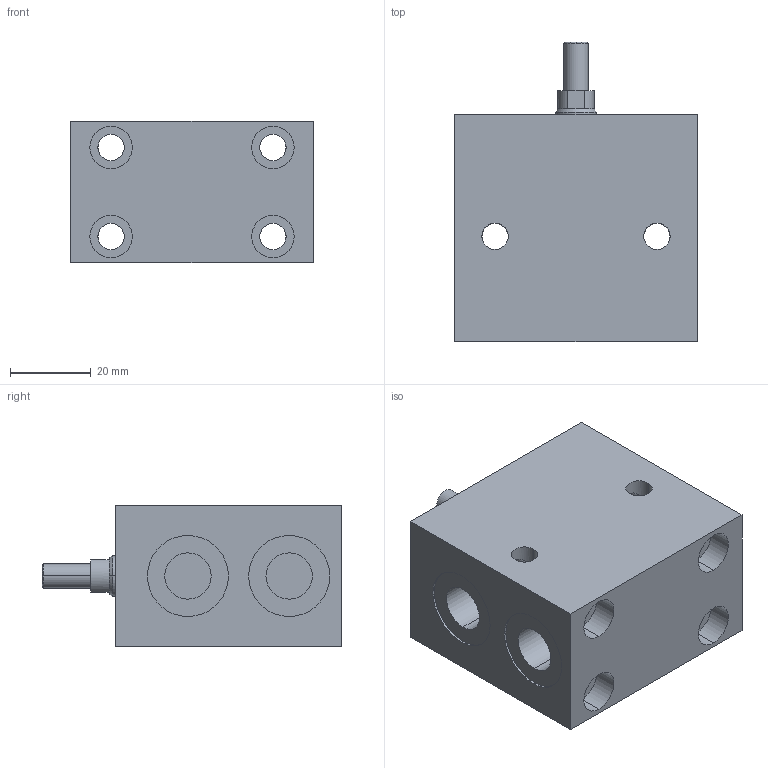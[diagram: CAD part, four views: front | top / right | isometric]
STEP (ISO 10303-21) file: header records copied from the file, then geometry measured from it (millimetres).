
FILE_DESCRIPTION (( 'STEP AP203' ), '1' );
FILE_NAME ('GERMA_Blockzylinder_600-016-016-A.STEP', '2015-07-16T12:20:50', ( '' ), ( '' ), 'SwSTEP 2.0', 'SolidWorks 2015', '' );
FILE_SCHEMA (( 'CONFIG_CONTROL_DESIGN' ));
Length unit declared in the file: millimetre
Products named in the file (3): GH-600-016_GH-600-016-016; Kolben 60x-016_Kolben DU.16-Hub16-AG; GERMA_Blockzylinder_600-016-016-A
Assembly tree (2 placements, depth 2):
  GERMA_Blockzylinder_600-016-016-A
    GH-600-016_GH-600-016-016
    Kolben 60x-016_Kolben DU.16-Hub16-AG
Bounding box: 60 x 74 x 35 mm (x, y, z)
Volume: 101392.6 mm3; surface area: 26168.6 mm2
Topology: 2 solids, 2 shells, 111 faces, 254 edges, 155 vertices
Faces by surface type: cylinder 69, plane 30, cone 12
Entity records: 3448 total; most frequent: CARTESIAN_POINT 617, DIRECTION 569, ORIENTED_EDGE 500, EDGE_CURVE 250, AXIS2_PLACEMENT_3D 235, VERTEX_POINT 155, EDGE_LOOP 143, CIRCLE 119
